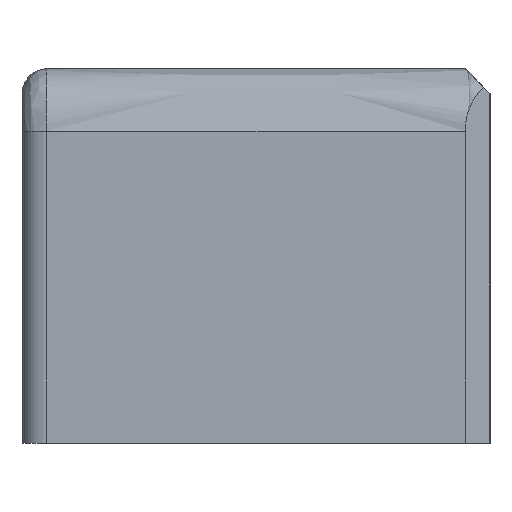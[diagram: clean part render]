
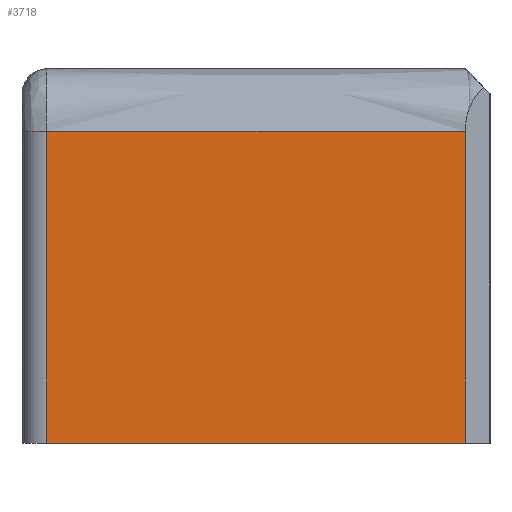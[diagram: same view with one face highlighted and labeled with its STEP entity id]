
A CAD part, left-side view. The second image highlights one B-rep face of the part: STEP entity #3718.
In plain terms, the highlighted planar face has unit normal (-1, 0, 0).
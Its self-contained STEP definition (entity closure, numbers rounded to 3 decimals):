
#116=B_SPLINE_CURVE_WITH_KNOTS('',3,(#6106,#6107,#6108,#6109),
 .UNSPECIFIED.,.F.,.F.,(4,4),(0.08,1.42),.UNSPECIFIED.);
#153=PLANE('',#4043);
#273=LINE('',#6049,#549);
#281=LINE('',#6131,#557);
#282=LINE('',#6132,#558);
#549=VECTOR('',#4656,10.);
#557=VECTOR('',#4676,10.);
#558=VECTOR('',#4677,10.);
#906=FACE_OUTER_BOUND('',#1166,.T.);
#1166=EDGE_LOOP('',(#2701,#2702,#2703,#2704));
#1719=VERTEX_POINT('',#6025);
#1721=VERTEX_POINT('',#6047);
#1729=VERTEX_POINT('',#6105);
#1731=VERTEX_POINT('',#6130);
#2066=EDGE_CURVE('',#1721,#1719,#273,.T.);
#2078=EDGE_CURVE('',#1719,#1729,#116,.T.);
#2081=EDGE_CURVE('',#1721,#1731,#281,.T.);
#2082=EDGE_CURVE('',#1729,#1731,#282,.T.);
#2701=ORIENTED_EDGE('',*,*,#2066,.F.);
#2702=ORIENTED_EDGE('',*,*,#2081,.T.);
#2703=ORIENTED_EDGE('',*,*,#2082,.F.);
#2704=ORIENTED_EDGE('',*,*,#2078,.F.);
#3718=ADVANCED_FACE('',(#906),#153,.T.);
#4043=AXIS2_PLACEMENT_3D('',#6129,#4674,#4675);
#4656=DIRECTION('',(0.,0.,1.));
#4674=DIRECTION('center_axis',(-1.,0.,0.));
#4675=DIRECTION('ref_axis',(0.,-1.,0.));
#4676=DIRECTION('',(0.,-1.,0.));
#4677=DIRECTION('',(0.,0.,-1.));
#6025=CARTESIAN_POINT('',(0.,14.2,10.));
#6047=CARTESIAN_POINT('',(0.,14.2,0.));
#6049=CARTESIAN_POINT('',(0.,14.2,0.));
#6105=CARTESIAN_POINT('',(0.,0.8,10.));
#6106=CARTESIAN_POINT('Ctrl Pts',(0.,14.2,10.));
#6107=CARTESIAN_POINT('Ctrl Pts',(0.,9.733,10.));
#6108=CARTESIAN_POINT('Ctrl Pts',(0.,5.267,10.));
#6109=CARTESIAN_POINT('Ctrl Pts',(0.,0.8,10.));
#6129=CARTESIAN_POINT('Origin',(0.,15.,0.));
#6130=CARTESIAN_POINT('',(0.,0.8,0.));
#6131=CARTESIAN_POINT('',(0.,15.,0.));
#6132=CARTESIAN_POINT('',(0.,0.8,0.));
